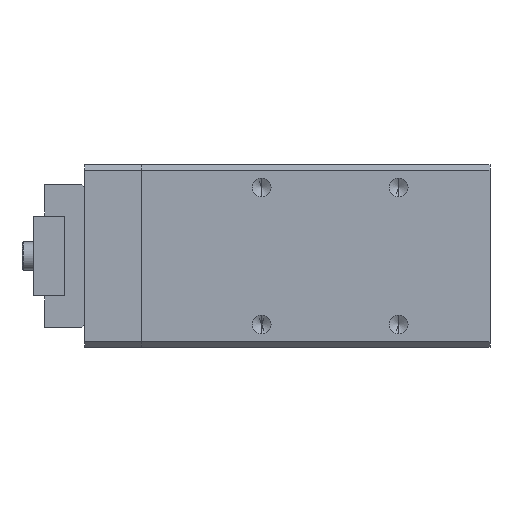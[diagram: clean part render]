
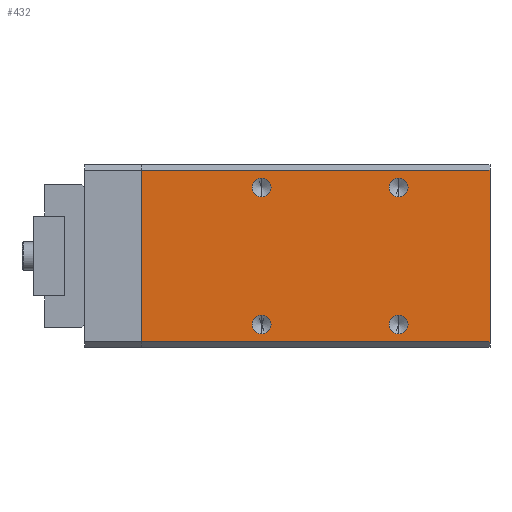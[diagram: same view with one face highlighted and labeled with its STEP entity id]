
A CAD part, left-side view. The second image highlights one B-rep face of the part: STEP entity #432.
In plain terms, the highlighted planar face has unit normal (-1, 0, 0).
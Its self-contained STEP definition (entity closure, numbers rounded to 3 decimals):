
#381 = EDGE_LOOP ( 'NONE', ( #433, #422 ) ) ;
#393 = VERTEX_POINT ( 'NONE', #16767 ) ;
#394 = EDGE_CURVE ( 'NONE', #395, #393, #16766, .T. ) ;
#395 = VERTEX_POINT ( 'NONE', #16762 ) ;
#396 = ORIENTED_EDGE ( 'NONE', *, *, #394, .F. ) ;
#397 = EDGE_CURVE ( 'NONE', #403, #393, #16761, .T. ) ;
#403 = VERTEX_POINT ( 'NONE', #16752 ) ;
#404 = ORIENTED_EDGE ( 'NONE', *, *, #397, .T. ) ;
#405 = EDGE_LOOP ( 'NONE', ( #406, #404, #396, #449 ) ) ;
#406 = ORIENTED_EDGE ( 'NONE', *, *, #407, .T. ) ;
#407 = EDGE_CURVE ( 'NONE', #408, #403, #16807, .T. ) ;
#408 = VERTEX_POINT ( 'NONE', #16803 ) ;
#422 = ORIENTED_EDGE ( 'NONE', *, *, #15522, .F. ) ;
#425 = EDGE_CURVE ( 'NONE', #15520, #13370, #16842, .T. ) ;
#430 = EDGE_CURVE ( 'NONE', #13351, #13348, #16828, .T. ) ;
#432 = ADVANCED_FACE ( 'NONE', ( #16823, #16822, #16821, #16820, #16819 ), #16866, .F. ) ;
#433 = ORIENTED_EDGE ( 'NONE', *, *, #425, .F. ) ;
#435 = EDGE_LOOP ( 'NONE', ( #438, #469 ) ) ;
#438 = ORIENTED_EDGE ( 'NONE', *, *, #430, .F. ) ;
#440 = ORIENTED_EDGE ( 'NONE', *, *, #13212, .F. ) ;
#442 = ORIENTED_EDGE ( 'NONE', *, *, #446, .F. ) ;
#443 = EDGE_LOOP ( 'NONE', ( #442, #448 ) ) ;
#446 = EDGE_CURVE ( 'NONE', #13256, #13186, #16847, .T. ) ;
#448 = ORIENTED_EDGE ( 'NONE', *, *, #13254, .F. ) ;
#449 = ORIENTED_EDGE ( 'NONE', *, *, #451, .T. ) ;
#450 = EDGE_LOOP ( 'NONE', ( #452, #440 ) ) ;
#451 = EDGE_CURVE ( 'NONE', #395, #408, #16896, .T. ) ;
#452 = ORIENTED_EDGE ( 'NONE', *, *, #453, .F. ) ;
#453 = EDGE_CURVE ( 'NONE', #13213, #13207, #16891, .T. ) ;
#469 = ORIENTED_EDGE ( 'NONE', *, *, #13350, .F. ) ;
#2986 = CARTESIAN_POINT ( 'NONE',  ( -23., 55., -13.65 ) ) ;
#3096 = CARTESIAN_POINT ( 'NONE',  ( -23., 31., -10.35 ) ) ;
#3097 = DIRECTION ( 'NONE',  ( 0., 0., 1. ) ) ;
#3098 = DIRECTION ( 'NONE',  ( -1., 0., 0. ) ) ;
#3099 = CARTESIAN_POINT ( 'NONE',  ( -23., 31., -12. ) ) ;
#3100 = AXIS2_PLACEMENT_3D ( 'NONE', #3099, #3098, #3097 ) ;
#3101 = CIRCLE ( 'NONE', #3100, 1.65 ) ;
#3102 = CARTESIAN_POINT ( 'NONE',  ( -23., 31., -13.65 ) ) ;
#3194 = CARTESIAN_POINT ( 'NONE',  ( -23., 55., -12. ) ) ;
#3247 = CARTESIAN_POINT ( 'NONE',  ( -23., 55., -10.35 ) ) ;
#3252 = DIRECTION ( 'NONE',  ( 0., 0., 1. ) ) ;
#3253 = DIRECTION ( 'NONE',  ( -1., 0., 0. ) ) ;
#3254 = AXIS2_PLACEMENT_3D ( 'NONE', #3194, #3253, #3252 ) ;
#3255 = CIRCLE ( 'NONE', #3254, 1.65 ) ;
#3517 = CARTESIAN_POINT ( 'NONE',  ( -23., 55., 13.65 ) ) ;
#3518 = DIRECTION ( 'NONE',  ( 0., 0., 1. ) ) ;
#3519 = DIRECTION ( 'NONE',  ( -1., 0., 0. ) ) ;
#3520 = CARTESIAN_POINT ( 'NONE',  ( -23., 55., 12. ) ) ;
#3521 = AXIS2_PLACEMENT_3D ( 'NONE', #3520, #3519, #3518 ) ;
#3522 = CIRCLE ( 'NONE', #3521, 1.65 ) ;
#3523 = CARTESIAN_POINT ( 'NONE',  ( -23., 55., 10.35 ) ) ;
#3568 = CARTESIAN_POINT ( 'NONE',  ( -23., 31., 10.35 ) ) ;
#10790 = DIRECTION ( 'NONE',  ( 0., 0., 1. ) ) ;
#10791 = DIRECTION ( 'NONE',  ( -1., 0., 0. ) ) ;
#10792 = CARTESIAN_POINT ( 'NONE',  ( -23., 31., 12. ) ) ;
#10793 = AXIS2_PLACEMENT_3D ( 'NONE', #10792, #10791, #10790 ) ;
#10794 = CIRCLE ( 'NONE', #10793, 1.65 ) ;
#10795 = CARTESIAN_POINT ( 'NONE',  ( -23., 31., 13.65 ) ) ;
#13186 = VERTEX_POINT ( 'NONE', #2986 ) ;
#13207 = VERTEX_POINT ( 'NONE', #3102 ) ;
#13212 = EDGE_CURVE ( 'NONE', #13207, #13213, #3101, .T. ) ;
#13213 = VERTEX_POINT ( 'NONE', #3096 ) ;
#13254 = EDGE_CURVE ( 'NONE', #13186, #13256, #3255, .T. ) ;
#13256 = VERTEX_POINT ( 'NONE', #3247 ) ;
#13348 = VERTEX_POINT ( 'NONE', #3523 ) ;
#13350 = EDGE_CURVE ( 'NONE', #13348, #13351, #3522, .T. ) ;
#13351 = VERTEX_POINT ( 'NONE', #3517 ) ;
#13370 = VERTEX_POINT ( 'NONE', #3568 ) ;
#15520 = VERTEX_POINT ( 'NONE', #10795 ) ;
#15522 = EDGE_CURVE ( 'NONE', #13370, #15520, #10794, .T. ) ;
#16752 = CARTESIAN_POINT ( 'NONE',  ( -23., 71., -15. ) ) ;
#16758 = DIRECTION ( 'NONE',  ( 0., -1., 0. ) ) ;
#16759 = VECTOR ( 'NONE', #16758, 1000. ) ;
#16760 = CARTESIAN_POINT ( 'NONE',  ( -23., 10., -15. ) ) ;
#16761 = LINE ( 'NONE', #16760, #16759 ) ;
#16762 = CARTESIAN_POINT ( 'NONE',  ( -23., 10., 15. ) ) ;
#16763 = DIRECTION ( 'NONE',  ( 0., 0., -1. ) ) ;
#16764 = VECTOR ( 'NONE', #16763, 1000. ) ;
#16765 = CARTESIAN_POINT ( 'NONE',  ( -23., 10., 16. ) ) ;
#16766 = LINE ( 'NONE', #16765, #16764 ) ;
#16767 = CARTESIAN_POINT ( 'NONE',  ( -23., 10., -15. ) ) ;
#16776 = CARTESIAN_POINT ( 'NONE',  ( -23., 31., 12. ) ) ;
#16803 = CARTESIAN_POINT ( 'NONE',  ( -23., 71., 15. ) ) ;
#16804 = DIRECTION ( 'NONE',  ( 0., 0., -1. ) ) ;
#16805 = VECTOR ( 'NONE', #16804, 1000. ) ;
#16806 = CARTESIAN_POINT ( 'NONE',  ( -23., 71., 16. ) ) ;
#16807 = LINE ( 'NONE', #16806, #16805 ) ;
#16819 = FACE_BOUND ( 'NONE', #435, .T. ) ;
#16820 = FACE_BOUND ( 'NONE', #450, .T. ) ;
#16821 = FACE_BOUND ( 'NONE', #443, .T. ) ;
#16822 = FACE_OUTER_BOUND ( 'NONE', #405, .T. ) ;
#16823 = FACE_BOUND ( 'NONE', #381, .T. ) ;
#16824 = DIRECTION ( 'NONE',  ( 0., 0., 1. ) ) ;
#16825 = DIRECTION ( 'NONE',  ( -1., 0., 0. ) ) ;
#16826 = CARTESIAN_POINT ( 'NONE',  ( -23., 55., 12. ) ) ;
#16827 = AXIS2_PLACEMENT_3D ( 'NONE', #16826, #16825, #16824 ) ;
#16828 = CIRCLE ( 'NONE', #16827, 1.65 ) ;
#16839 = DIRECTION ( 'NONE',  ( 0., 0., 1. ) ) ;
#16840 = DIRECTION ( 'NONE',  ( -1., 0., 0. ) ) ;
#16841 = AXIS2_PLACEMENT_3D ( 'NONE', #16776, #16840, #16839 ) ;
#16842 = CIRCLE ( 'NONE', #16841, 1.65 ) ;
#16843 = DIRECTION ( 'NONE',  ( 0., 0., 1. ) ) ;
#16844 = DIRECTION ( 'NONE',  ( -1., 0., 0. ) ) ;
#16845 = CARTESIAN_POINT ( 'NONE',  ( -23., 55., -12. ) ) ;
#16846 = AXIS2_PLACEMENT_3D ( 'NONE', #16845, #16844, #16843 ) ;
#16847 = CIRCLE ( 'NONE', #16846, 1.65 ) ;
#16862 = DIRECTION ( 'NONE',  ( 0., 0., -1. ) ) ;
#16863 = DIRECTION ( 'NONE',  ( 1., 0., 0. ) ) ;
#16864 = CARTESIAN_POINT ( 'NONE',  ( -23., 10., 16. ) ) ;
#16865 = AXIS2_PLACEMENT_3D ( 'NONE', #16864, #16863, #16862 ) ;
#16866 = PLANE ( 'NONE',  #16865 ) ;
#16887 = DIRECTION ( 'NONE',  ( 0., 0., 1. ) ) ;
#16888 = DIRECTION ( 'NONE',  ( -1., 0., 0. ) ) ;
#16889 = CARTESIAN_POINT ( 'NONE',  ( -23., 31., -12. ) ) ;
#16890 = AXIS2_PLACEMENT_3D ( 'NONE', #16889, #16888, #16887 ) ;
#16891 = CIRCLE ( 'NONE', #16890, 1.65 ) ;
#16893 = DIRECTION ( 'NONE',  ( 0., 1., 0. ) ) ;
#16894 = VECTOR ( 'NONE', #16893, 1000. ) ;
#16895 = CARTESIAN_POINT ( 'NONE',  ( -23., 10., 15. ) ) ;
#16896 = LINE ( 'NONE', #16895, #16894 ) ;
